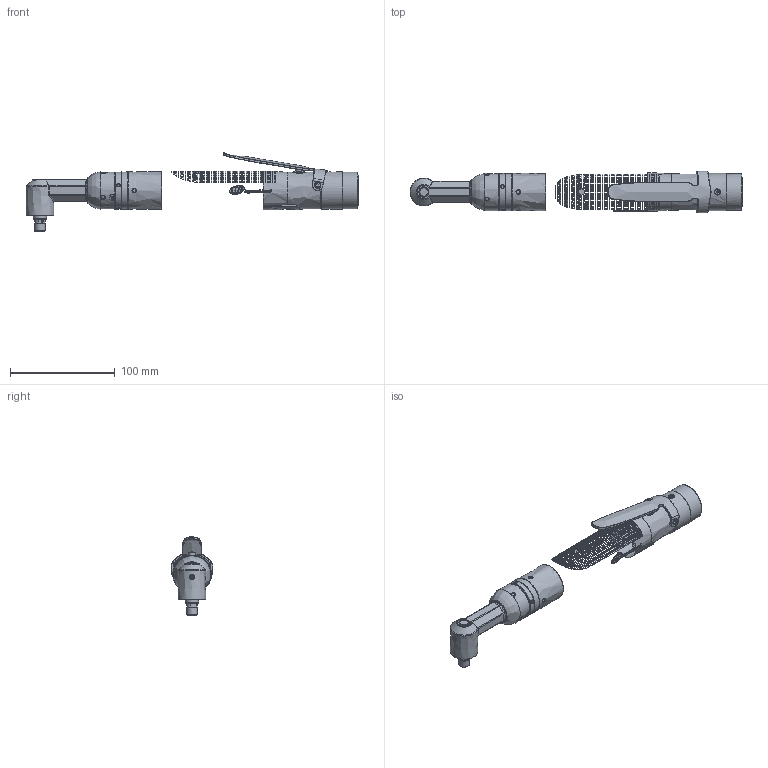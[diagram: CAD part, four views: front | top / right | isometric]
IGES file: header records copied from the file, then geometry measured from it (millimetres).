
Global section: file name: G:\Eng_Shared\PF\SURF MODELS\QE-QM\QE\QE2\Angle\16610172_A.igs; native system: NX V4.0; preprocessor: UGS NX IGES V4.0; date: 20090224.095813; units: millimetre
Bounding box: 317.64 x 39.38 x 74.88 mm (x, y, z)
Surface area: 42060.8 mm2 (no closed solid volume)
Topology: 0 solids, 0 shells, 1126 faces, 7325 edges, 7103 vertices
Faces by surface type: bspline 1126
